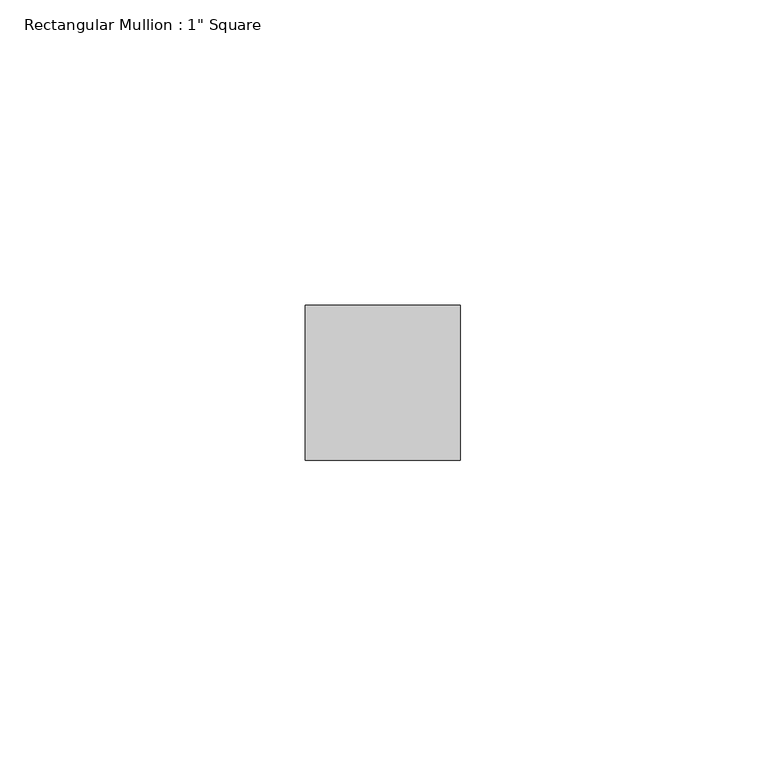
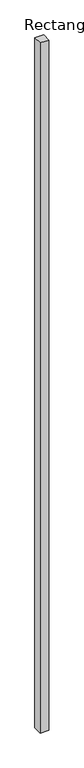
"""IFC4 building model written with IfcOpenShell, lengths in millimetres: member geometry."""

from ifc_helpers import new_model, si_unit, frame, origin, place, context, project, spatial, polyline, outline, extrude, source, transform, mapped, element, save


def member_24c90e2e(model_context):
    return source(origin(), model_context, "Body", "SweptSolid", [
        extrude(outline(polyline([(12.7, 12.7), (12.7, -12.7), (-12.7, -12.7), (-12.7, 12.7), (12.7, 12.7)])), frame((0.0, 0.0, -2087.227282), z_axis=(0.0, 0.0, 1.0), x_axis=(1.0, 0.0, 0.0)), (0.0, 0.0, 1.0), 2087.227282),
    ])


if __name__ == "__main__":
    model = new_model("IFC4")
    model_context = context("Model", 3, world=origin())
    ifc_project = project(units=[si_unit("LENGTHUNIT", "METRE", prefix="MILLI")], contexts=[model_context])
    site = spatial("IfcSite", under=ifc_project)
    building = spatial("IfcBuilding", under=site)
    placement = place(None, origin())
    member_shape = member_24c90e2e(model_context)
    element("IfcMember", 1, ObjectType="Rectangular Mullion : 1\" Square", at=placement, inside=building, context=model_context, shape_type="MappedRepresentation", body=[
        mapped(member_shape, transform((0.0, 0.0, 0.0), x_axis=(1.0, 0.0, 0.0), y_axis=(0.0, 1.0, 0.0), z_axis=(0.0, 0.0, 1.0))),
    ])
    save(model, "model.ifc")
